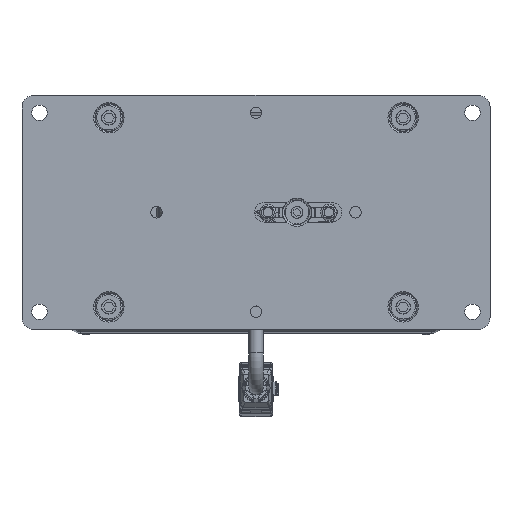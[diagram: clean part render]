
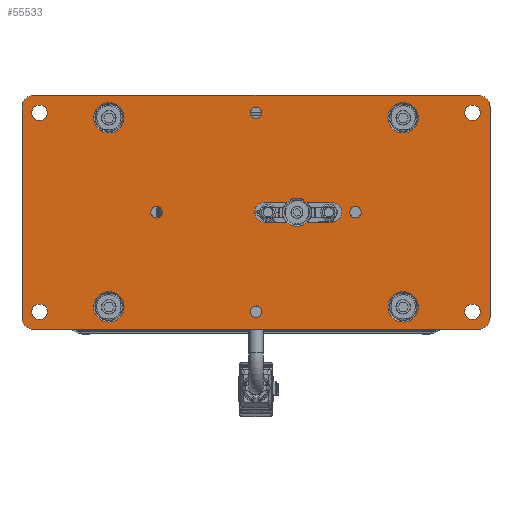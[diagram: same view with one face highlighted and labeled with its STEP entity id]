
A CAD part, top view. The second image highlights one B-rep face of the part: STEP entity #55533.
In plain terms, the highlighted planar face has unit normal (0, 0, 1).
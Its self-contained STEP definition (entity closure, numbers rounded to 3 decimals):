
#2974=LINE('',#78326,#6306);
#2975=LINE('',#78330,#6307);
#2976=LINE('',#78334,#6308);
#2977=LINE('',#78338,#6309);
#2978=LINE('',#78339,#6310);
#2979=LINE('',#78344,#6311);
#2980=LINE('',#78348,#6312);
#2981=LINE('',#78349,#6313);
#6306=VECTOR('',#64447,1000.);
#6307=VECTOR('',#64450,1000.);
#6308=VECTOR('',#64453,1000.);
#6309=VECTOR('',#64456,1000.);
#6310=VECTOR('',#64457,1000.);
#6311=VECTOR('',#64460,1000.);
#6312=VECTOR('',#64463,1000.);
#6313=VECTOR('',#64464,1000.);
#10054=ORIENTED_EDGE('',*,*,#23080,.F.);
#10055=ORIENTED_EDGE('',*,*,#23081,.F.);
#10056=ORIENTED_EDGE('',*,*,#23082,.F.);
#10057=ORIENTED_EDGE('',*,*,#23083,.F.);
#10058=ORIENTED_EDGE('',*,*,#23084,.T.);
#10059=ORIENTED_EDGE('',*,*,#23085,.T.);
#10060=ORIENTED_EDGE('',*,*,#23086,.T.);
#10061=ORIENTED_EDGE('',*,*,#23087,.T.);
#10062=ORIENTED_EDGE('',*,*,#23088,.F.);
#10063=ORIENTED_EDGE('',*,*,#23089,.F.);
#10064=ORIENTED_EDGE('',*,*,#23090,.F.);
#10065=ORIENTED_EDGE('',*,*,#23091,.F.);
#10066=ORIENTED_EDGE('',*,*,#23092,.T.);
#10067=ORIENTED_EDGE('',*,*,#23093,.T.);
#10068=ORIENTED_EDGE('',*,*,#23094,.T.);
#10069=ORIENTED_EDGE('',*,*,#23095,.T.);
#10070=ORIENTED_EDGE('',*,*,#23096,.T.);
#10071=ORIENTED_EDGE('',*,*,#23097,.T.);
#10072=ORIENTED_EDGE('',*,*,#23098,.T.);
#10073=ORIENTED_EDGE('',*,*,#23099,.T.);
#10074=ORIENTED_EDGE('',*,*,#23100,.F.);
#10075=ORIENTED_EDGE('',*,*,#23101,.T.);
#10076=ORIENTED_EDGE('',*,*,#23102,.F.);
#10077=ORIENTED_EDGE('',*,*,#23103,.T.);
#10078=ORIENTED_EDGE('',*,*,#23104,.T.);
#10079=ORIENTED_EDGE('',*,*,#23073,.T.);
#10080=ORIENTED_EDGE('',*,*,#23105,.T.);
#10081=ORIENTED_EDGE('',*,*,#23106,.T.);
#23073=EDGE_CURVE('',#29647,#29645,#33997,.T.);
#23080=EDGE_CURVE('',#29653,#29653,#34001,.T.);
#23081=EDGE_CURVE('',#29654,#29654,#34002,.T.);
#23082=EDGE_CURVE('',#29655,#29655,#34003,.T.);
#23083=EDGE_CURVE('',#29656,#29656,#34004,.T.);
#23084=EDGE_CURVE('',#29657,#29657,#34005,.T.);
#23085=EDGE_CURVE('',#29658,#29658,#34006,.T.);
#23086=EDGE_CURVE('',#29659,#29659,#34007,.T.);
#23087=EDGE_CURVE('',#29660,#29660,#34008,.T.);
#23088=EDGE_CURVE('',#29661,#29661,#34009,.T.);
#23089=EDGE_CURVE('',#29662,#29662,#34010,.T.);
#23090=EDGE_CURVE('',#29663,#29663,#34011,.T.);
#23091=EDGE_CURVE('',#29664,#29664,#34012,.T.);
#23092=EDGE_CURVE('',#29665,#29666,#34013,.T.);
#23093=EDGE_CURVE('',#29666,#29667,#2974,.T.);
#23094=EDGE_CURVE('',#29667,#29668,#34014,.T.);
#23095=EDGE_CURVE('',#29668,#29669,#2975,.T.);
#23096=EDGE_CURVE('',#29669,#29670,#34015,.T.);
#23097=EDGE_CURVE('',#29670,#29671,#2976,.T.);
#23098=EDGE_CURVE('',#29671,#29672,#34016,.T.);
#23099=EDGE_CURVE('',#29672,#29665,#2977,.T.);
#23100=EDGE_CURVE('',#29673,#29674,#2978,.T.);
#23101=EDGE_CURVE('',#29673,#29675,#34017,.T.);
#23102=EDGE_CURVE('',#29676,#29675,#2979,.T.);
#23103=EDGE_CURVE('',#29676,#29677,#34018,.T.);
#23104=EDGE_CURVE('',#29677,#29647,#2980,.T.);
#23105=EDGE_CURVE('',#29645,#29678,#2981,.T.);
#23106=EDGE_CURVE('',#29678,#29674,#34019,.T.);
#29645=VERTEX_POINT('',#78283);
#29647=VERTEX_POINT('',#78286);
#29653=VERTEX_POINT('',#78300);
#29654=VERTEX_POINT('',#78302);
#29655=VERTEX_POINT('',#78304);
#29656=VERTEX_POINT('',#78306);
#29657=VERTEX_POINT('',#78308);
#29658=VERTEX_POINT('',#78310);
#29659=VERTEX_POINT('',#78312);
#29660=VERTEX_POINT('',#78314);
#29661=VERTEX_POINT('',#78316);
#29662=VERTEX_POINT('',#78318);
#29663=VERTEX_POINT('',#78320);
#29664=VERTEX_POINT('',#78322);
#29665=VERTEX_POINT('',#78324);
#29666=VERTEX_POINT('',#78325);
#29667=VERTEX_POINT('',#78327);
#29668=VERTEX_POINT('',#78329);
#29669=VERTEX_POINT('',#78331);
#29670=VERTEX_POINT('',#78333);
#29671=VERTEX_POINT('',#78335);
#29672=VERTEX_POINT('',#78337);
#29673=VERTEX_POINT('',#78340);
#29674=VERTEX_POINT('',#78341);
#29675=VERTEX_POINT('',#78343);
#29676=VERTEX_POINT('',#78345);
#29677=VERTEX_POINT('',#78347);
#29678=VERTEX_POINT('',#78350);
#33997=CIRCLE('',#58697,6.);
#34001=CIRCLE('',#58702,2.459);
#34002=CIRCLE('',#58703,2.459);
#34003=CIRCLE('',#58704,2.459);
#34004=CIRCLE('',#58705,2.459);
#34005=CIRCLE('',#58706,6.5);
#34006=CIRCLE('',#58707,6.5);
#34007=CIRCLE('',#58708,6.5);
#34008=CIRCLE('',#58709,6.5);
#34009=CIRCLE('',#58710,3.3);
#34010=CIRCLE('',#58711,3.3);
#34011=CIRCLE('',#58712,3.3);
#34012=CIRCLE('',#58713,3.3);
#34013=CIRCLE('',#58714,5.);
#34014=CIRCLE('',#58715,5.);
#34015=CIRCLE('',#58716,5.);
#34016=CIRCLE('',#58717,5.);
#34017=CIRCLE('',#58718,6.);
#34018=CIRCLE('',#58719,4.15);
#34019=CIRCLE('',#58720,4.15);
#36544=EDGE_LOOP('',(#10054));
#36545=EDGE_LOOP('',(#10055));
#36546=EDGE_LOOP('',(#10056));
#36547=EDGE_LOOP('',(#10057));
#36548=EDGE_LOOP('',(#10058));
#36549=EDGE_LOOP('',(#10059));
#36550=EDGE_LOOP('',(#10060));
#36551=EDGE_LOOP('',(#10061));
#36552=EDGE_LOOP('',(#10062));
#36553=EDGE_LOOP('',(#10063));
#36554=EDGE_LOOP('',(#10064));
#36555=EDGE_LOOP('',(#10065));
#36556=EDGE_LOOP('',(#10066,#10067,#10068,#10069,#10070,#10071,#10072,#10073));
#36557=EDGE_LOOP('',(#10074,#10075,#10076,#10077,#10078,#10079,#10080,#10081));
#40064=FACE_BOUND('',#36544,.T.);
#40065=FACE_BOUND('',#36545,.T.);
#40066=FACE_BOUND('',#36546,.T.);
#40067=FACE_BOUND('',#36547,.T.);
#40068=FACE_BOUND('',#36548,.T.);
#40069=FACE_BOUND('',#36549,.T.);
#40070=FACE_BOUND('',#36550,.T.);
#40071=FACE_BOUND('',#36551,.T.);
#40072=FACE_BOUND('',#36552,.T.);
#40073=FACE_BOUND('',#36553,.T.);
#40074=FACE_BOUND('',#36554,.T.);
#40075=FACE_BOUND('',#36555,.T.);
#40076=FACE_BOUND('',#36556,.T.);
#40077=FACE_BOUND('',#36557,.T.);
#43515=PLANE('',#58701);
#55533=ADVANCED_FACE('',(#40064,#40065,#40066,#40067,#40068,#40069,#40070,
#40071,#40072,#40073,#40074,#40075,#40076,#40077),#43515,.T.);
#58697=AXIS2_PLACEMENT_3D('',#78285,#64408,#64409);
#58701=AXIS2_PLACEMENT_3D('',#78298,#64419,#64420);
#58702=AXIS2_PLACEMENT_3D('',#78299,#64421,#64422);
#58703=AXIS2_PLACEMENT_3D('',#78301,#64423,#64424);
#58704=AXIS2_PLACEMENT_3D('',#78303,#64425,#64426);
#58705=AXIS2_PLACEMENT_3D('',#78305,#64427,#64428);
#58706=AXIS2_PLACEMENT_3D('',#78307,#64429,#64430);
#58707=AXIS2_PLACEMENT_3D('',#78309,#64431,#64432);
#58708=AXIS2_PLACEMENT_3D('',#78311,#64433,#64434);
#58709=AXIS2_PLACEMENT_3D('',#78313,#64435,#64436);
#58710=AXIS2_PLACEMENT_3D('',#78315,#64437,#64438);
#58711=AXIS2_PLACEMENT_3D('',#78317,#64439,#64440);
#58712=AXIS2_PLACEMENT_3D('',#78319,#64441,#64442);
#58713=AXIS2_PLACEMENT_3D('',#78321,#64443,#64444);
#58714=AXIS2_PLACEMENT_3D('',#78323,#64445,#64446);
#58715=AXIS2_PLACEMENT_3D('',#78328,#64448,#64449);
#58716=AXIS2_PLACEMENT_3D('',#78332,#64451,#64452);
#58717=AXIS2_PLACEMENT_3D('',#78336,#64454,#64455);
#58718=AXIS2_PLACEMENT_3D('',#78342,#64458,#64459);
#58719=AXIS2_PLACEMENT_3D('',#78346,#64461,#64462);
#58720=AXIS2_PLACEMENT_3D('',#78351,#64465,#64466);
#64408=DIRECTION('',(0.,0.,-1.));
#64409=DIRECTION('',(1.,0.,0.));
#64419=DIRECTION('',(0.,0.,1.));
#64420=DIRECTION('',(1.,0.,0.));
#64421=DIRECTION('',(0.,0.,1.));
#64422=DIRECTION('',(1.,0.,0.));
#64423=DIRECTION('',(0.,0.,1.));
#64424=DIRECTION('',(1.,0.,0.));
#64425=DIRECTION('',(0.,0.,1.));
#64426=DIRECTION('',(1.,0.,0.));
#64427=DIRECTION('',(0.,0.,1.));
#64428=DIRECTION('',(1.,0.,0.));
#64429=DIRECTION('',(0.,0.,-1.));
#64430=DIRECTION('',(1.,0.,0.));
#64431=DIRECTION('',(0.,0.,-1.));
#64432=DIRECTION('',(1.,0.,0.));
#64433=DIRECTION('',(0.,0.,-1.));
#64434=DIRECTION('',(1.,0.,0.));
#64435=DIRECTION('',(0.,0.,-1.));
#64436=DIRECTION('',(1.,0.,0.));
#64437=DIRECTION('',(0.,0.,1.));
#64438=DIRECTION('',(1.,0.,0.));
#64439=DIRECTION('',(0.,0.,1.));
#64440=DIRECTION('',(1.,0.,0.));
#64441=DIRECTION('',(0.,0.,1.));
#64442=DIRECTION('',(1.,0.,0.));
#64443=DIRECTION('',(0.,0.,1.));
#64444=DIRECTION('',(1.,0.,0.));
#64445=DIRECTION('',(0.,0.,1.));
#64446=DIRECTION('',(1.,0.,0.));
#64447=DIRECTION('',(1.,0.,0.));
#64448=DIRECTION('',(0.,0.,1.));
#64449=DIRECTION('',(-1.,0.,0.));
#64450=DIRECTION('',(0.,1.,0.));
#64451=DIRECTION('',(0.,0.,1.));
#64452=DIRECTION('',(1.,0.,0.));
#64453=DIRECTION('',(-1.,0.,0.));
#64454=DIRECTION('',(0.,0.,1.));
#64455=DIRECTION('',(1.,0.,0.));
#64456=DIRECTION('',(0.,-1.,0.));
#64457=DIRECTION('',(1.,0.,0.));
#64458=DIRECTION('',(0.,0.,-1.));
#64459=DIRECTION('',(1.,0.,0.));
#64460=DIRECTION('',(1.,0.,0.));
#64461=DIRECTION('',(0.,0.,-1.));
#64462=DIRECTION('',(0.,-1.,0.));
#64463=DIRECTION('',(1.,0.,0.));
#64464=DIRECTION('',(1.,0.,0.));
#64465=DIRECTION('',(0.,0.,-1.));
#64466=DIRECTION('',(0.,1.,0.));
#78283=CARTESIAN_POINT('',(21.833,4.15,8.));
#78285=CARTESIAN_POINT('',(17.5,0.,8.));
#78286=CARTESIAN_POINT('',(13.167,4.15,8.));
#78298=CARTESIAN_POINT('',(-95.,-45.,8.));
#78299=CARTESIAN_POINT('',(0.,-42.5,8.));
#78300=CARTESIAN_POINT('',(2.459,-42.5,8.));
#78301=CARTESIAN_POINT('',(42.5,0.,8.));
#78302=CARTESIAN_POINT('',(44.959,0.,8.));
#78303=CARTESIAN_POINT('',(0.,42.5,8.));
#78304=CARTESIAN_POINT('',(2.459,42.5,8.));
#78305=CARTESIAN_POINT('',(-42.5,0.,8.));
#78306=CARTESIAN_POINT('',(-40.042,0.,8.));
#78307=CARTESIAN_POINT('',(-62.9,-40.4,8.));
#78308=CARTESIAN_POINT('',(-56.4,-40.4,8.));
#78309=CARTESIAN_POINT('',(62.9,-40.4,8.));
#78310=CARTESIAN_POINT('',(69.4,-40.4,8.));
#78311=CARTESIAN_POINT('',(62.9,40.4,8.));
#78312=CARTESIAN_POINT('',(69.4,40.4,8.));
#78313=CARTESIAN_POINT('',(-62.9,40.4,8.));
#78314=CARTESIAN_POINT('',(-56.4,40.4,8.));
#78315=CARTESIAN_POINT('',(-92.5,-42.5,8.));
#78316=CARTESIAN_POINT('',(-89.2,-42.5,8.));
#78317=CARTESIAN_POINT('',(92.5,-42.5,8.));
#78318=CARTESIAN_POINT('',(95.8,-42.5,8.));
#78319=CARTESIAN_POINT('',(92.5,42.5,8.));
#78320=CARTESIAN_POINT('',(95.8,42.5,8.));
#78321=CARTESIAN_POINT('',(-92.5,42.5,8.));
#78322=CARTESIAN_POINT('',(-89.2,42.5,8.));
#78323=CARTESIAN_POINT('',(-95.,-45.,8.));
#78324=CARTESIAN_POINT('',(-100.,-45.,8.));
#78325=CARTESIAN_POINT('',(-95.,-50.,8.));
#78326=CARTESIAN_POINT('',(-95.,-50.,8.));
#78327=CARTESIAN_POINT('',(95.,-50.,8.));
#78328=CARTESIAN_POINT('',(95.,-45.,8.));
#78329=CARTESIAN_POINT('',(100.,-45.,8.));
#78330=CARTESIAN_POINT('',(100.,-45.,8.));
#78331=CARTESIAN_POINT('',(100.,45.,8.));
#78332=CARTESIAN_POINT('',(95.,45.,8.));
#78333=CARTESIAN_POINT('',(95.,50.,8.));
#78334=CARTESIAN_POINT('',(95.,50.,8.));
#78335=CARTESIAN_POINT('',(-95.,50.,8.));
#78336=CARTESIAN_POINT('',(-95.,45.,8.));
#78337=CARTESIAN_POINT('',(-100.,45.,8.));
#78338=CARTESIAN_POINT('',(-100.,45.,8.));
#78339=CARTESIAN_POINT('',(3.5,-4.15,8.));
#78340=CARTESIAN_POINT('',(21.833,-4.15,8.));
#78341=CARTESIAN_POINT('',(32.5,-4.15,8.));
#78342=CARTESIAN_POINT('',(17.5,0.,8.));
#78343=CARTESIAN_POINT('',(13.167,-4.15,8.));
#78344=CARTESIAN_POINT('',(3.5,-4.15,8.));
#78345=CARTESIAN_POINT('',(3.5,-4.15,8.));
#78346=CARTESIAN_POINT('',(3.5,0.,8.));
#78347=CARTESIAN_POINT('',(3.5,4.15,8.));
#78348=CARTESIAN_POINT('',(3.5,4.15,8.));
#78349=CARTESIAN_POINT('',(3.5,4.15,8.));
#78350=CARTESIAN_POINT('',(32.5,4.15,8.));
#78351=CARTESIAN_POINT('',(32.5,0.,8.));
